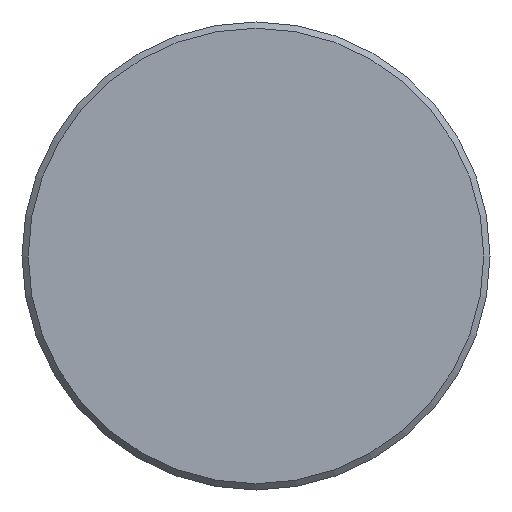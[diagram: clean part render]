
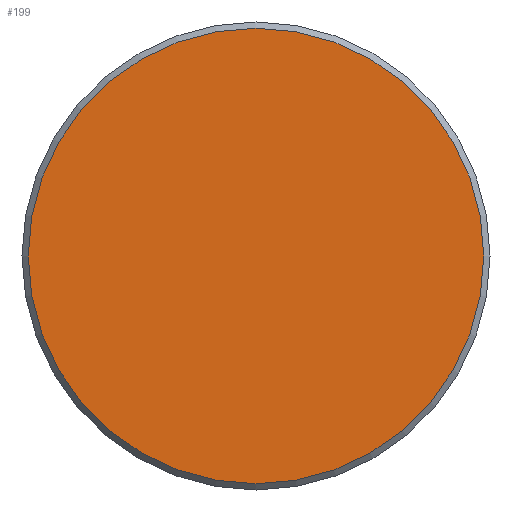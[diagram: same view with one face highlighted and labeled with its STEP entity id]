
A CAD part, front view. The second image highlights one B-rep face of the part: STEP entity #199.
In plain terms, the highlighted planar face has unit normal (0, -1, 0).
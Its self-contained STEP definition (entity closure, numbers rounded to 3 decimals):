
#199 = ADVANCED_FACE( '', ( #393 ), #394, .F. );
#393 = FACE_OUTER_BOUND( '', #593, .T. );
#394 = PLANE( '', #594 );
#593 = EDGE_LOOP( '', ( #890 ) );
#594 = AXIS2_PLACEMENT_3D( '', #891, #892, #893 );
#890 = ORIENTED_EDGE( '', *, *, #1152, .T. );
#891 = CARTESIAN_POINT( '', ( 29.2, 0., 0. ) );
#892 = DIRECTION( '', ( 0., 1., 0. ) );
#893 = DIRECTION( '', ( 0., 0., 1. ) );
#1152 = EDGE_CURVE( '', #1340, #1340, #1341, .T. );
#1340 = VERTEX_POINT( '', #1647 );
#1341 = CIRCLE( '', #1648, 29.2 );
#1647 = CARTESIAN_POINT( '', ( 0., 0., -29.2 ) );
#1648 = AXIS2_PLACEMENT_3D( '', #2065, #2066, #2067 );
#2065 = CARTESIAN_POINT( '', ( 0., 0., 0. ) );
#2066 = DIRECTION( '', ( 0., -1., 0. ) );
#2067 = DIRECTION( '', ( 0., 0., -1. ) );
